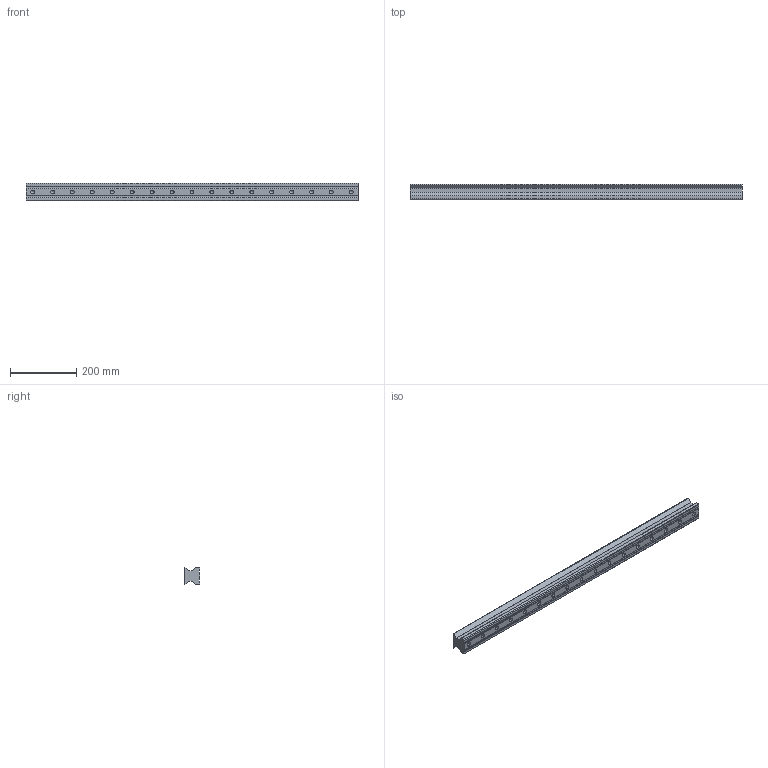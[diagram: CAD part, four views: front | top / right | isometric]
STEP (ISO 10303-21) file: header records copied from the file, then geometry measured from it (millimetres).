
FILE_DESCRIPTION(/* description */ (''),/* implementation_level */ '2;1');
FILE_NAME(/* name */ 'URR55T1000H_GW202603049645.stp',/* time_stamp */ '2026-03-30T23:09:07+08:00',/* author */ ('user'),/* organization */ (''),/* preprocessor_version */ 'ST-DEVELOPER v20.1',/* originating_system */ 'Autodesk Inventor 2026',/* authorisation */ '');
FILE_SCHEMA (('AUTOMOTIVE_DESIGN { 1 0 10303 214 3 1 1 }'));
Products named in the file (2): URR55T1000H_GW202603049645; UR55
Assembly tree (1 placements, depth 2):
  URR55T1000H_GW202603049645
    UR55
Bounding box: 1000 x 46 x 53 mm (x, y, z)
Volume: 1901404.8 mm3; surface area: 233181.9 mm2
Topology: 1 solids, 1 shells, 193 faces, 541 edges, 355 vertices
Faces by surface type: plane 92, bspline 57, cylinder 27, cone 17
Full cylindrical faces by diameter (mm): 11.835 x17
Entity records: 7354 total; most frequent: CARTESIAN_POINT 2716, ORIENTED_EDGE 1048, DIRECTION 746, EDGE_CURVE 524, LINE 356, VECTOR 356, VERTEX_POINT 355, EDGE_LOOP 215
